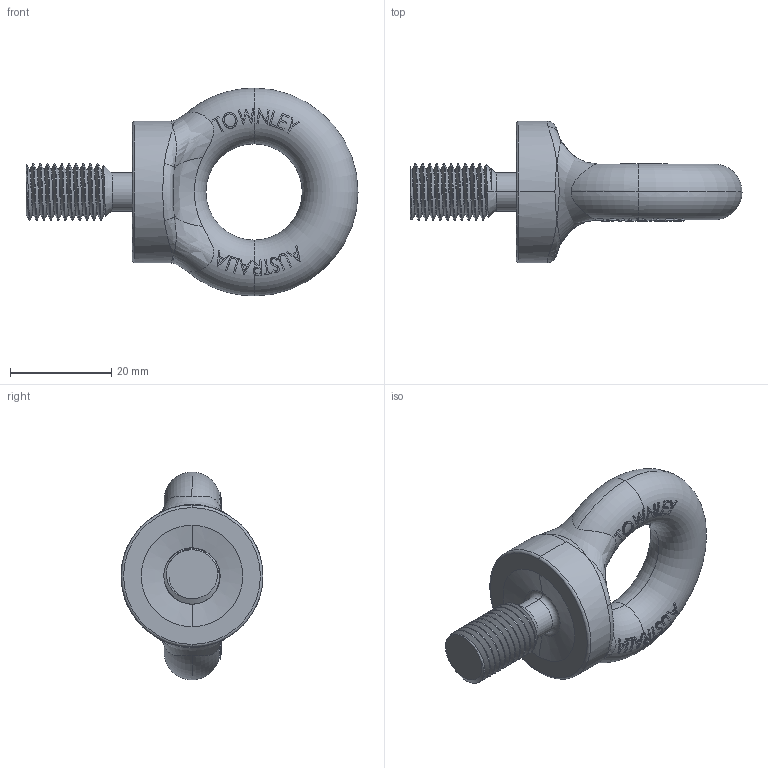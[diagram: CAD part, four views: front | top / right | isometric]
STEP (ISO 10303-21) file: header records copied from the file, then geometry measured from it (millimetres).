
FILE_DESCRIPTION (( 'STEP AP214' ), '1' );
FILE_NAME ('EBBSF437.STEP', '2014-12-17T04:08:35', ( '' ), ( '' ), 'SwSTEP 2.0', 'SolidWorks 2012', '' );
FILE_SCHEMA (( 'AUTOMOTIVE_DESIGN' ));
Length unit declared in the file: millimetre
Products named in the file (1): EBBSF437
Bounding box: 65.5 x 28 x 41 mm (x, y, z)
Volume: 15256.9 mm3; surface area: 5615.9 mm2
Topology: 1 solids, 1 shells, 246 faces, 661 edges, 428 vertices
Faces by surface type: plane 130, bspline 50, torus 35, cylinder 26, cone 5
Entity records: 13142 total; most frequent: CARTESIAN_POINT 7567, ORIENTED_EDGE 1306, DIRECTION 677, EDGE_CURVE 653, VERTEX_POINT 428, B_SPLINE_CURVE_WITH_KNOTS 371, EDGE_LOOP 267, FACE_OUTER_BOUND 246
